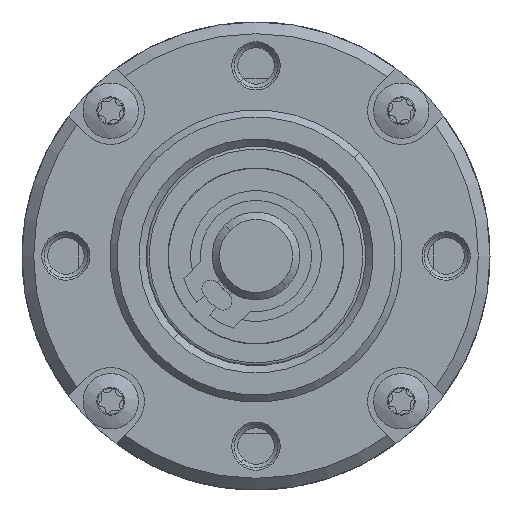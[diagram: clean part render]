
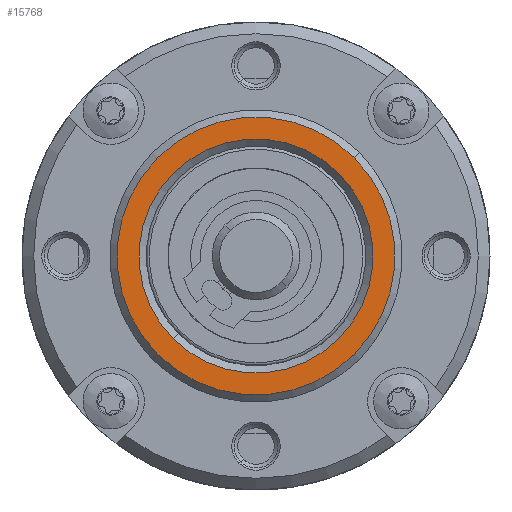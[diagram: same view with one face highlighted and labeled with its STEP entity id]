
A CAD part, left-side view. The second image highlights one B-rep face of the part: STEP entity #15768.
In plain terms, the highlighted planar face has unit normal (-1, 0, 0) as drawn and (1, 0, 0) by its records, which use the part's own axes.
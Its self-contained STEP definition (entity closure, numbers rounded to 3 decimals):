
#500 = ORIENTED_EDGE ( 'NONE', *, *, #69035, .F. ) ;
#6558 = CARTESIAN_POINT ( 'NONE',  ( 9.5, 0., 0. ) ) ;
#10929 = CARTESIAN_POINT ( 'NONE',  ( 9.5, 0., 0. ) ) ;
#11597 = CARTESIAN_POINT ( 'NONE',  ( 9.5, 0., -8. ) ) ;
#12159 = DIRECTION ( 'NONE',  ( 0., 0., 1. ) ) ;
#14269 = CARTESIAN_POINT ( 'NONE',  ( 9.5, 0., 0. ) ) ;
#15034 = AXIS2_PLACEMENT_3D ( 'NONE', #10929, #49890, #16596 ) ;
#15768 = ADVANCED_FACE ( 'NONE', ( #66530, #66171 ), #30438, .T. ) ;
#16596 = DIRECTION ( 'NONE',  ( 0., 0., -1. ) ) ;
#16658 = DIRECTION ( 'NONE',  ( -1., 0., 0. ) ) ;
#19890 = DIRECTION ( 'NONE',  ( 0., 0., -1. ) ) ;
#23457 = ORIENTED_EDGE ( 'NONE', *, *, #47839, .F. ) ;
#24584 = CIRCLE ( 'NONE', #37592, 8. ) ;
#25089 = EDGE_CURVE ( 'NONE', #70951, #64473, #24584, .T. ) ;
#25921 = ORIENTED_EDGE ( 'NONE', *, *, #28688, .T. ) ;
#28688 = EDGE_CURVE ( 'NONE', #64473, #70951, #46160, .T. ) ;
#29396 = DIRECTION ( 'NONE',  ( 0., 0., -1. ) ) ;
#29540 = DIRECTION ( 'NONE',  ( 1., 0., 0. ) ) ;
#29640 = CARTESIAN_POINT ( 'NONE',  ( 9.5, 0., 0. ) ) ;
#29732 = CIRCLE ( 'NONE', #46657, 9.5 ) ;
#30438 = PLANE ( 'NONE',  #57110 ) ;
#37592 = AXIS2_PLACEMENT_3D ( 'NONE', #14269, #53137, #19890 ) ;
#42433 = EDGE_LOOP ( 'NONE', ( #23457, #500 ) ) ;
#44581 = ORIENTED_EDGE ( 'NONE', *, *, #25089, .T. ) ;
#45297 = AXIS2_PLACEMENT_3D ( 'NONE', #6558, #45505, #12159 ) ;
#45505 = DIRECTION ( 'NONE',  ( -1., 0., 0. ) ) ;
#46160 = CIRCLE ( 'NONE', #15034, 8. ) ;
#46657 = AXIS2_PLACEMENT_3D ( 'NONE', #49957, #16658, #55394 ) ;
#47135 = CARTESIAN_POINT ( 'NONE',  ( 9.5, 0., 9.5 ) ) ;
#47839 = EDGE_CURVE ( 'NONE', #59199, #50390, #29732, .T. ) ;
#49890 = DIRECTION ( 'NONE',  ( -1., 0., 0. ) ) ;
#49957 = CARTESIAN_POINT ( 'NONE',  ( 9.5, 0., 0. ) ) ;
#50390 = VERTEX_POINT ( 'NONE', #54446 ) ;
#53137 = DIRECTION ( 'NONE',  ( -1., 0., 0. ) ) ;
#54446 = CARTESIAN_POINT ( 'NONE',  ( 9.5, 0., -9.5 ) ) ;
#55394 = DIRECTION ( 'NONE',  ( 0., 0., 1. ) ) ;
#55455 = CARTESIAN_POINT ( 'NONE',  ( 9.5, 0., 8. ) ) ;
#57110 = AXIS2_PLACEMENT_3D ( 'NONE', #29640, #29540, #29396 ) ;
#57543 = EDGE_LOOP ( 'NONE', ( #44581, #25921 ) ) ;
#59199 = VERTEX_POINT ( 'NONE', #47135 ) ;
#59939 = CIRCLE ( 'NONE', #45297, 9.5 ) ;
#64473 = VERTEX_POINT ( 'NONE', #55455 ) ;
#66171 = FACE_BOUND ( 'NONE', #57543, .T. ) ;
#66530 = FACE_OUTER_BOUND ( 'NONE', #42433, .T. ) ;
#69035 = EDGE_CURVE ( 'NONE', #50390, #59199, #59939, .T. ) ;
#70951 = VERTEX_POINT ( 'NONE', #11597 ) ;
